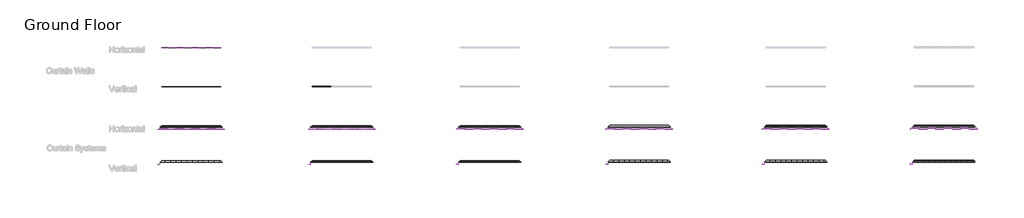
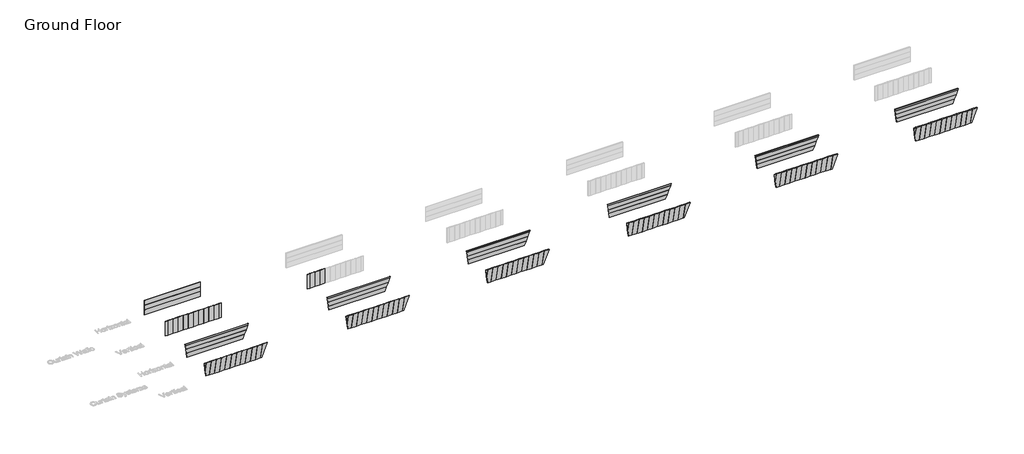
# One storey, part 1 of 11: 121 plates.
"""IFC4 building model written with IfcOpenShell, lengths in millimetres."""

from ifc_helpers import new_model, si_unit, origin, place, context, project, spatial, transform, mapped, element, save
from components import system_panel_404e2bfc, system_panel_2d74c069, system_panel_7d9ebce2, system_panel_118ae758, system_panel_f9ed22c7, system_panel_caadb3ed, system_panel_c4111855, system_panel_e86207e9, system_panel_6e68f707, system_panel_431e03af, system_panel_2f546f10, system_panel_4b1fffc4, system_panel_3cb5285a, system_panel_6109f289, system_panel_6baa01c1, system_panel_dae39a37, system_panel_6d159058, system_panel_117297ec, system_panel_b2905ae1, system_panel_31a21a41, system_panel_ad70d7ff, system_panel_e9b7887a, system_panel_136fc1d7, system_panel_a8e93ce1, system_panel_d58b1396, system_panel_2589ff73, system_panel_b51e4787, system_panel_1549973f, system_panel_0e52adfc, system_panel_0f2582f7, system_panel_222113f3, system_panel_da703823, system_panel_d9a83c33, system_panel_cab4ce0a, system_panel_4289257d, system_panel_7543d43a, system_panel_e06f3d7a, system_panel_694ff7dd, system_panel_97bfa6f5, system_panel_f83dd443, system_panel_cb7dd1a5, system_panel_1c91e0ad, system_panel_2bb59846, system_panel_a37b50f9, system_panel_3832784e, system_panel_7e7ab7b5, system_panel_7eebd85d, system_panel_ecdf3daf, system_panel_99cabc98, system_panel_362cc927, system_panel_5eaa5fa1, system_panel_1fb29ec4, system_panel_d4aeffd6

model = new_model("IFC4")

# Units and contexts
model_context = context("Model", 3, world=origin())
ifc_project = project(units=[si_unit("LENGTHUNIT", "METRE", prefix="MILLI")], contexts=[model_context])

# Site, building, storey
site = spatial("IfcSite", under=ifc_project)
building = spatial("IfcBuilding", under=site)
storey = spatial("IfcBuildingStorey", under=building, Name="Ground Floor", Elevation=0.0)

# Plates
placement = place(None, origin())
system_panel_shape = system_panel_404e2bfc(model_context)
element("IfcPlate", 1, ObjectType="System Panel : MetecnoPanel_75mm_Plain_Surfmist", at=placement, inside=storey, context=model_context, shape_type="MappedRepresentation", body=[
    mapped(system_panel_shape, transform((15128.5594541, -1242.5362448, 0.0), x_axis=(-1.0, 0.0, 0.0), y_axis=(0.0, -0.978268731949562, -0.20734099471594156), z_axis=(0.0, -0.20734099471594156, 0.978268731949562))),
])
system_panel_2_shape = system_panel_2d74c069(model_context)
element("IfcPlate", 2, ObjectType="System Panel : MetecnoPanel_75mm_Plain_Surfmist", at=placement, inside=storey, context=model_context, shape_type="MappedRepresentation", body=[
    mapped(system_panel_2_shape, transform((15128.5594541, -1470.611339, 1076.0956051), x_axis=(-1.0, 0.0, 0.0), y_axis=(0.0, -0.978268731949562, -0.20734099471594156), z_axis=(0.0, -0.20734099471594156, 0.978268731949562))),
])
system_panel_3_shape = system_panel_7d9ebce2(model_context)
element("IfcPlate", 3, ObjectType="System Panel : MetecnoPanel_75mm_Plain_Surfmist", at=placement, inside=storey, context=model_context, shape_type="MappedRepresentation", body=[
    mapped(system_panel_3_shape, transform((15128.5594541, -1698.6864332, 2152.1912103), x_axis=(-1.0, 0.0, 0.0), y_axis=(0.0, -0.978268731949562, -0.20734099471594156), z_axis=(0.0, -0.20734099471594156, 0.978268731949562))),
])
system_panel_4_shape = system_panel_118ae758(model_context)
element("IfcPlate", 4, ObjectType="System Panel : MetecnoPanel_75mm_Plain_Surfmist", at=placement, inside=storey, context=model_context, shape_type="MappedRepresentation", body=[
    mapped(system_panel_4_shape, transform((15128.5594541, -1926.7615274, 3228.2868154), x_axis=(-1.0, 0.0, 0.0), y_axis=(0.0, -0.978268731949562, -0.20734099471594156), z_axis=(0.0, -0.20734099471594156, 0.978268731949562))),
])
system_panel_5_shape = system_panel_f9ed22c7(model_context)
element("IfcPlate", 5, ObjectType="System Panel : MetecnoPanel_150mm_Plain_Surfmist", at=placement, inside=storey, context=model_context, shape_type="MappedRepresentation", body=[
    mapped(system_panel_5_shape, transform((107128.5594541, -1242.5362448, 0.0), x_axis=(-1.0, 0.0, 0.0), y_axis=(0.0, -0.978268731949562, -0.20734099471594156), z_axis=(0.0, -0.20734099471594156, 0.978268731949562))),
])
system_panel_6_shape = system_panel_caadb3ed(model_context)
element("IfcPlate", 6, ObjectType="System Panel : MetecnoPanel_150mm_Plain_Surfmist", at=placement, inside=storey, context=model_context, shape_type="MappedRepresentation", body=[
    mapped(system_panel_6_shape, transform((107128.5594541, -1470.611339, 1076.0956051), x_axis=(-1.0, 0.0, 0.0), y_axis=(0.0, -0.978268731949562, -0.20734099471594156), z_axis=(0.0, -0.20734099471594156, 0.978268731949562))),
])
system_panel_7_shape = system_panel_c4111855(model_context)
element("IfcPlate", 7, ObjectType="System Panel : MetecnoPanel_150mm_Plain_Surfmist", at=placement, inside=storey, context=model_context, shape_type="MappedRepresentation", body=[
    mapped(system_panel_7_shape, transform((107128.5594541, -1698.6864332, 2152.1912103), x_axis=(-1.0, 0.0, 0.0), y_axis=(0.0, -0.978268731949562, -0.20734099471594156), z_axis=(0.0, -0.20734099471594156, 0.978268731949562))),
])
system_panel_8_shape = system_panel_e86207e9(model_context)
element("IfcPlate", 8, ObjectType="System Panel : MetecnoPanel_150mm_Plain_Surfmist", at=placement, inside=storey, context=model_context, shape_type="MappedRepresentation", body=[
    mapped(system_panel_8_shape, transform((107128.5594541, -1926.7615274, 3228.2868154), x_axis=(-1.0, 0.0, 0.0), y_axis=(0.0, -0.978268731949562, -0.20734099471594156), z_axis=(0.0, -0.20734099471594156, 0.978268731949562))),
])
system_panel_9_shape = system_panel_6e68f707(model_context)
element("IfcPlate", 9, ObjectType="System Panel : MetecnoPanel_200mm_Plain_Surfmist", at=placement, inside=storey, context=model_context, shape_type="MappedRepresentation", body=[
    mapped(system_panel_9_shape, transform((137128.5594541, -1242.5362448, 0.0), x_axis=(-1.0, 0.0, 0.0), y_axis=(0.0, -0.978268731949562, -0.20734099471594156), z_axis=(0.0, -0.20734099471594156, 0.978268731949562))),
])
system_panel_10_shape = system_panel_431e03af(model_context)
element("IfcPlate", 10, ObjectType="System Panel : MetecnoPanel_200mm_Plain_Surfmist", at=placement, inside=storey, context=model_context, shape_type="MappedRepresentation", body=[
    mapped(system_panel_10_shape, transform((137128.5594541, -1470.611339, 1076.0956051), x_axis=(-1.0, 0.0, 0.0), y_axis=(0.0, -0.978268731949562, -0.20734099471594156), z_axis=(0.0, -0.20734099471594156, 0.978268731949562))),
])
system_panel_11_shape = system_panel_2f546f10(model_context)
element("IfcPlate", 11, ObjectType="System Panel : MetecnoPanel_200mm_Plain_Surfmist", at=placement, inside=storey, context=model_context, shape_type="MappedRepresentation", body=[
    mapped(system_panel_11_shape, transform((137128.5594541, -1698.6864332, 2152.1912103), x_axis=(-1.0, 0.0, 0.0), y_axis=(0.0, -0.978268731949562, -0.20734099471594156), z_axis=(0.0, -0.20734099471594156, 0.978268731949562))),
])
system_panel_12_shape = system_panel_4b1fffc4(model_context)
element("IfcPlate", 12, ObjectType="System Panel : MetecnoPanel_200mm_Plain_Surfmist", at=placement, inside=storey, context=model_context, shape_type="MappedRepresentation", body=[
    mapped(system_panel_12_shape, transform((137128.5594541, -1926.7615274, 3228.2868154), x_axis=(-1.0, 0.0, 0.0), y_axis=(0.0, -0.978268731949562, -0.20734099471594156), z_axis=(0.0, -0.20734099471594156, 0.978268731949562))),
])
system_panel_13_shape = system_panel_3cb5285a(model_context)
element("IfcPlate", 13, ObjectType="System Panel : MetecnoPanel_50mm_Plain_Surfmist", at=placement, inside=storey, context=model_context, shape_type="MappedRepresentation", body=[
    mapped(system_panel_13_shape, transform((-15371.4405459, 14597.4637552, 0.0), x_axis=(1.0, 0.0, 0.0), y_axis=(0.0, 1.0, 0.0), z_axis=(0.0, 0.0, 1.0))),
])
element("IfcPlate", 14, ObjectType="System Panel : MetecnoPanel_50mm_Plain_Surfmist", at=placement, inside=storey, context=model_context, shape_type="MappedRepresentation", body=[
    mapped(system_panel_13_shape, transform((-15371.4405459, 14597.4637552, 1100.0), x_axis=(1.0, 0.0, 0.0), y_axis=(0.0, 1.0, 0.0), z_axis=(0.0, 0.0, 1.0))),
])
element("IfcPlate", 15, ObjectType="System Panel : MetecnoPanel_50mm_Plain_Surfmist", at=placement, inside=storey, context=model_context, shape_type="MappedRepresentation", body=[
    mapped(system_panel_13_shape, transform((-15371.4405459, 14597.4637552, 2200.0), x_axis=(1.0, 0.0, 0.0), y_axis=(0.0, 1.0, 0.0), z_axis=(0.0, 0.0, 1.0))),
])
system_panel_14_shape = system_panel_6109f289(model_context)
element("IfcPlate", 16, ObjectType="System Panel : MetecnoPanel_50mm_Plain_Surfmist", at=placement, inside=storey, context=model_context, shape_type="MappedRepresentation", body=[
    mapped(system_panel_14_shape, transform((-21121.4405459, 6697.4637552, 0.0), x_axis=(1.0, 0.0, 0.0), y_axis=(0.0, 1.0, 0.0), z_axis=(0.0, 0.0, 1.0))),
])
element("IfcPlate", 17, ObjectType="System Panel : MetecnoPanel_50mm_Plain_Surfmist", at=placement, inside=storey, context=model_context, shape_type="MappedRepresentation", body=[
    mapped(system_panel_14_shape, transform((-9621.4405459, 6697.4637552, 0.0), x_axis=(1.0, 0.0, 0.0), y_axis=(0.0, 1.0, 0.0), z_axis=(0.0, 0.0, 1.0))),
])
system_panel_15_shape = system_panel_6baa01c1(model_context)
element("IfcPlate", 18, ObjectType="System Panel : MetecnoPanel_50mm_Plain_Surfmist", at=placement, inside=storey, context=model_context, shape_type="MappedRepresentation", body=[
    mapped(system_panel_15_shape, transform((-18121.4405459, 6697.4637552, 0.0), x_axis=(1.0, 0.0, 0.0), y_axis=(0.0, 1.0, 0.0), z_axis=(0.0, 0.0, 1.0))),
])
element("IfcPlate", 19, ObjectType="System Panel : MetecnoPanel_50mm_Plain_Surfmist", at=placement, inside=storey, context=model_context, shape_type="MappedRepresentation", body=[
    mapped(system_panel_15_shape, transform((-17021.4405459, 6697.4637552, 0.0), x_axis=(1.0, 0.0, 0.0), y_axis=(0.0, 1.0, 0.0), z_axis=(0.0, 0.0, 1.0))),
])
element("IfcPlate", 20, ObjectType="System Panel : MetecnoPanel_50mm_Plain_Surfmist", at=placement, inside=storey, context=model_context, shape_type="MappedRepresentation", body=[
    mapped(system_panel_15_shape, transform((-15921.4405459, 6697.4637552, 0.0), x_axis=(1.0, 0.0, 0.0), y_axis=(0.0, 1.0, 0.0), z_axis=(0.0, 0.0, 1.0))),
])
element("IfcPlate", 21, ObjectType="System Panel : MetecnoPanel_50mm_Plain_Surfmist", at=placement, inside=storey, context=model_context, shape_type="MappedRepresentation", body=[
    mapped(system_panel_15_shape, transform((-14821.4405459, 6697.4637552, 0.0), x_axis=(1.0, 0.0, 0.0), y_axis=(0.0, 1.0, 0.0), z_axis=(0.0, 0.0, 1.0))),
])
element("IfcPlate", 22, ObjectType="System Panel : MetecnoPanel_50mm_Plain_Surfmist", at=placement, inside=storey, context=model_context, shape_type="MappedRepresentation", body=[
    mapped(system_panel_15_shape, transform((-13721.4405459, 6697.4637552, 0.0), x_axis=(1.0, 0.0, 0.0), y_axis=(0.0, 1.0, 0.0), z_axis=(0.0, 0.0, 1.0))),
])
element("IfcPlate", 23, ObjectType="System Panel : MetecnoPanel_50mm_Plain_Surfmist", at=placement, inside=storey, context=model_context, shape_type="MappedRepresentation", body=[
    mapped(system_panel_15_shape, transform((-12621.4405459, 6697.4637552, 0.0), x_axis=(1.0, 0.0, 0.0), y_axis=(0.0, 1.0, 0.0), z_axis=(0.0, 0.0, 1.0))),
])
element("IfcPlate", 24, ObjectType="System Panel : MetecnoPanel_50mm_Plain_Surfmist", at=placement, inside=storey, context=model_context, shape_type="MappedRepresentation", body=[
    mapped(system_panel_15_shape, transform((-11521.4405459, 6697.4637552, 0.0), x_axis=(1.0, 0.0, 0.0), y_axis=(0.0, 1.0, 0.0), z_axis=(0.0, 0.0, 1.0))),
])
element("IfcPlate", 25, ObjectType="System Panel : MetecnoPanel_50mm_Plain_Surfmist", at=placement, inside=storey, context=model_context, shape_type="MappedRepresentation", body=[
    mapped(system_panel_15_shape, transform((-10421.4405459, 6697.4637552, 0.0), x_axis=(1.0, 0.0, 0.0), y_axis=(0.0, 1.0, 0.0), z_axis=(0.0, 0.0, 1.0))),
])
element("IfcPlate", 26, ObjectType="System Panel : MetecnoPanel_50mm_Plain_Surfmist", at=placement, inside=storey, context=model_context, shape_type="MappedRepresentation", body=[
    mapped(system_panel_15_shape, transform((-19221.4405459, 6697.4637552, 0.0), x_axis=(1.0, 0.0, 0.0), y_axis=(0.0, 1.0, 0.0), z_axis=(0.0, 0.0, 1.0))),
])
element("IfcPlate", 27, ObjectType="System Panel : MetecnoPanel_50mm_Plain_Surfmist", at=placement, inside=storey, context=model_context, shape_type="MappedRepresentation", body=[
    mapped(system_panel_15_shape, transform((-20321.4405459, 6697.4637552, 0.0), x_axis=(1.0, 0.0, 0.0), y_axis=(0.0, 1.0, 0.0), z_axis=(0.0, 0.0, 1.0))),
])
system_panel_16_shape = system_panel_dae39a37(model_context)
element("IfcPlate", 28, ObjectType="System Panel : MetecnoPanel_75mm_Plain_Surfmist", at=placement, inside=storey, context=model_context, shape_type="MappedRepresentation", body=[
    mapped(system_panel_16_shape, transform((9378.5594541, 6697.4637552, 0.0), x_axis=(1.0, 0.0, 0.0), y_axis=(0.0, 1.0, 0.0), z_axis=(0.0, 0.0, 1.0))),
])
system_panel_17_shape = system_panel_6d159058(model_context)
element("IfcPlate", 29, ObjectType="System Panel : MetecnoPanel_75mm_Plain_Surfmist", at=placement, inside=storey, context=model_context, shape_type="MappedRepresentation", body=[
    mapped(system_panel_17_shape, transform((12378.5594541, 6697.4637552, 0.0), x_axis=(1.0, 0.0, 0.0), y_axis=(0.0, 1.0, 0.0), z_axis=(0.0, 0.0, 1.0))),
])
element("IfcPlate", 30, ObjectType="System Panel : MetecnoPanel_75mm_Plain_Surfmist", at=placement, inside=storey, context=model_context, shape_type="MappedRepresentation", body=[
    mapped(system_panel_17_shape, transform((11278.5594541, 6697.4637552, 0.0), x_axis=(1.0, 0.0, 0.0), y_axis=(0.0, 1.0, 0.0), z_axis=(0.0, 0.0, 1.0))),
])
element("IfcPlate", 31, ObjectType="System Panel : MetecnoPanel_75mm_Plain_Surfmist", at=placement, inside=storey, context=model_context, shape_type="MappedRepresentation", body=[
    mapped(system_panel_17_shape, transform((10178.5594541, 6697.4637552, 0.0), x_axis=(1.0, 0.0, 0.0), y_axis=(0.0, 1.0, 0.0), z_axis=(0.0, 0.0, 1.0))),
])
system_panel_18_shape = system_panel_117297ec(model_context)
element("IfcPlate", 32, ObjectType="System Panel : MetecnoPanel_50mm_Plain_Surfmist", at=placement, inside=storey, context=model_context, shape_type="MappedRepresentation", body=[
    mapped(system_panel_18_shape, transform((-15371.4405459, -1242.5362448, 0.0), x_axis=(-1.0, 0.0, 0.0), y_axis=(0.0, -0.978268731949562, -0.20734099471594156), z_axis=(0.0, -0.20734099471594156, 0.978268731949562))),
])
system_panel_19_shape = system_panel_b2905ae1(model_context)
element("IfcPlate", 33, ObjectType="System Panel : MetecnoPanel_50mm_Plain_Surfmist", at=placement, inside=storey, context=model_context, shape_type="MappedRepresentation", body=[
    mapped(system_panel_19_shape, transform((-15371.4405459, -1470.611339, 1076.0956051), x_axis=(-1.0, 0.0, 0.0), y_axis=(0.0, -0.978268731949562, -0.20734099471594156), z_axis=(0.0, -0.20734099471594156, 0.978268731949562))),
])
system_panel_20_shape = system_panel_31a21a41(model_context)
element("IfcPlate", 34, ObjectType="System Panel : MetecnoPanel_50mm_Plain_Surfmist", at=placement, inside=storey, context=model_context, shape_type="MappedRepresentation", body=[
    mapped(system_panel_20_shape, transform((-15371.4405459, -1698.6864332, 2152.1912103), x_axis=(-1.0, 0.0, 0.0), y_axis=(0.0, -0.978268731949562, -0.20734099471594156), z_axis=(0.0, -0.20734099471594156, 0.978268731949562))),
])
system_panel_21_shape = system_panel_ad70d7ff(model_context)
element("IfcPlate", 35, ObjectType="System Panel : MetecnoPanel_50mm_Plain_Surfmist", at=placement, inside=storey, context=model_context, shape_type="MappedRepresentation", body=[
    mapped(system_panel_21_shape, transform((-15371.4405459, -1926.7615274, 3228.2868154), x_axis=(-1.0, 0.0, 0.0), y_axis=(0.0, -0.978268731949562, -0.20734099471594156), z_axis=(0.0, -0.20734099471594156, 0.978268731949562))),
])
system_panel_22_shape = system_panel_e9b7887a(model_context)
element("IfcPlate", 36, ObjectType="System Panel : MetecnoPanel_50mm_Plain_Surfmist", at=placement, inside=storey, context=model_context, shape_type="MappedRepresentation", body=[
    mapped(system_panel_22_shape, transform((-9121.4405459, -8342.5362448, 0.0), x_axis=(-1.0, 0.0, 0.0), y_axis=(0.0, -0.978268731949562, -0.20734099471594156), z_axis=(0.0, -0.20734099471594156, 0.978268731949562))),
])
system_panel_23_shape = system_panel_136fc1d7(model_context)
element("IfcPlate", 37, ObjectType="System Panel : MetecnoPanel_50mm_Plain_Surfmist", at=placement, inside=storey, context=model_context, shape_type="MappedRepresentation", body=[
    mapped(system_panel_23_shape, transform((-10221.4405459, -8342.5362448, 0.0), x_axis=(-1.0, 0.0, 0.0), y_axis=(0.0, -0.978268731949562, -0.20734099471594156), z_axis=(0.0, -0.20734099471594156, 0.978268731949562))),
])
element("IfcPlate", 38, ObjectType="System Panel : MetecnoPanel_50mm_Plain_Surfmist", at=placement, inside=storey, context=model_context, shape_type="MappedRepresentation", body=[
    mapped(system_panel_23_shape, transform((-11321.4405459, -8342.5362448, 0.0), x_axis=(-1.0, 0.0, 0.0), y_axis=(0.0, -0.978268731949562, -0.20734099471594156), z_axis=(0.0, -0.20734099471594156, 0.978268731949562))),
])
element("IfcPlate", 39, ObjectType="System Panel : MetecnoPanel_50mm_Plain_Surfmist", at=placement, inside=storey, context=model_context, shape_type="MappedRepresentation", body=[
    mapped(system_panel_23_shape, transform((-12421.4405459, -8342.5362448, 0.0), x_axis=(-1.0, 0.0, 0.0), y_axis=(0.0, -0.978268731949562, -0.20734099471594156), z_axis=(0.0, -0.20734099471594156, 0.978268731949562))),
])
element("IfcPlate", 40, ObjectType="System Panel : MetecnoPanel_50mm_Plain_Surfmist", at=placement, inside=storey, context=model_context, shape_type="MappedRepresentation", body=[
    mapped(system_panel_23_shape, transform((-13521.4405459, -8342.5362448, 0.0), x_axis=(-1.0, 0.0, 0.0), y_axis=(0.0, -0.978268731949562, -0.20734099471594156), z_axis=(0.0, -0.20734099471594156, 0.978268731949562))),
])
element("IfcPlate", 41, ObjectType="System Panel : MetecnoPanel_50mm_Plain_Surfmist", at=placement, inside=storey, context=model_context, shape_type="MappedRepresentation", body=[
    mapped(system_panel_23_shape, transform((-14621.4405459, -8342.5362448, 0.0), x_axis=(-1.0, 0.0, 0.0), y_axis=(0.0, -0.978268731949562, -0.20734099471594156), z_axis=(0.0, -0.20734099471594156, 0.978268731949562))),
])
element("IfcPlate", 42, ObjectType="System Panel : MetecnoPanel_50mm_Plain_Surfmist", at=placement, inside=storey, context=model_context, shape_type="MappedRepresentation", body=[
    mapped(system_panel_23_shape, transform((-15721.4405459, -8342.5362448, 0.0), x_axis=(-1.0, 0.0, 0.0), y_axis=(0.0, -0.978268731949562, -0.20734099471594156), z_axis=(0.0, -0.20734099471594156, 0.978268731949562))),
])
element("IfcPlate", 43, ObjectType="System Panel : MetecnoPanel_50mm_Plain_Surfmist", at=placement, inside=storey, context=model_context, shape_type="MappedRepresentation", body=[
    mapped(system_panel_23_shape, transform((-16821.4405459, -8342.5362448, 0.0), x_axis=(-1.0, 0.0, 0.0), y_axis=(0.0, -0.978268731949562, -0.20734099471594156), z_axis=(0.0, -0.20734099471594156, 0.978268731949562))),
])
element("IfcPlate", 44, ObjectType="System Panel : MetecnoPanel_50mm_Plain_Surfmist", at=placement, inside=storey, context=model_context, shape_type="MappedRepresentation", body=[
    mapped(system_panel_23_shape, transform((-17921.4405459, -8342.5362448, 0.0), x_axis=(-1.0, 0.0, 0.0), y_axis=(0.0, -0.978268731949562, -0.20734099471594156), z_axis=(0.0, -0.20734099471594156, 0.978268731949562))),
])
element("IfcPlate", 45, ObjectType="System Panel : MetecnoPanel_50mm_Plain_Surfmist", at=placement, inside=storey, context=model_context, shape_type="MappedRepresentation", body=[
    mapped(system_panel_23_shape, transform((-19021.4405459, -8342.5362448, 0.0), x_axis=(-1.0, 0.0, 0.0), y_axis=(0.0, -0.978268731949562, -0.20734099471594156), z_axis=(0.0, -0.20734099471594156, 0.978268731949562))),
])
element("IfcPlate", 46, ObjectType="System Panel : MetecnoPanel_50mm_Plain_Surfmist", at=placement, inside=storey, context=model_context, shape_type="MappedRepresentation", body=[
    mapped(system_panel_23_shape, transform((-20121.4405459, -8342.5362448, 0.0), x_axis=(-1.0, 0.0, 0.0), y_axis=(0.0, -0.978268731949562, -0.20734099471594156), z_axis=(0.0, -0.20734099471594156, 0.978268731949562))),
])
system_panel_24_shape = system_panel_a8e93ce1(model_context)
element("IfcPlate", 47, ObjectType="System Panel : MetecnoPanel_50mm_Plain_Surfmist", at=placement, inside=storey, context=model_context, shape_type="MappedRepresentation", body=[
    mapped(system_panel_24_shape, transform((-21221.4405459, -8342.5362448, 0.0), x_axis=(-1.0, 0.0, 0.0), y_axis=(0.0, -0.978268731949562, -0.20734099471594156), z_axis=(0.0, -0.20734099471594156, 0.978268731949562))),
])
system_panel_25_shape = system_panel_d58b1396(model_context)
element("IfcPlate", 48, ObjectType="System Panel : MetecnoPanel_50mm_Plain_Surfmist", at=placement, inside=storey, context=model_context, shape_type="MappedRepresentation", body=[
    mapped(system_panel_25_shape, transform((-21971.4405459, -8724.0406089, 1800.0), x_axis=(-1.0, 0.0, 0.0), y_axis=(0.0, -0.978268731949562, -0.20734099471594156), z_axis=(0.0, -0.20734099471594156, 0.978268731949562))),
])
system_panel_26_shape = system_panel_2589ff73(model_context)
element("IfcPlate", 49, ObjectType="System Panel : MetecnoPanel_75mm_Plain_Surfmist", at=placement, inside=storey, context=model_context, shape_type="MappedRepresentation", body=[
    mapped(system_panel_26_shape, transform((21378.5594541, -8342.5362448, 0.0), x_axis=(-1.0, 0.0, 0.0), y_axis=(0.0, -0.978268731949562, -0.20734099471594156), z_axis=(0.0, -0.20734099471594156, 0.978268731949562))),
])
system_panel_27_shape = system_panel_b51e4787(model_context)
element("IfcPlate", 50, ObjectType="System Panel : MetecnoPanel_75mm_Plain_Surfmist", at=placement, inside=storey, context=model_context, shape_type="MappedRepresentation", body=[
    mapped(system_panel_27_shape, transform((20278.5594541, -8342.5362448, 0.0), x_axis=(-1.0, 0.0, 0.0), y_axis=(0.0, -0.978268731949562, -0.20734099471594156), z_axis=(0.0, -0.20734099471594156, 0.978268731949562))),
])
element("IfcPlate", 51, ObjectType="System Panel : MetecnoPanel_75mm_Plain_Surfmist", at=placement, inside=storey, context=model_context, shape_type="MappedRepresentation", body=[
    mapped(system_panel_27_shape, transform((19178.5594541, -8342.5362448, 0.0), x_axis=(-1.0, 0.0, 0.0), y_axis=(0.0, -0.978268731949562, -0.20734099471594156), z_axis=(0.0, -0.20734099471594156, 0.978268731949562))),
])
element("IfcPlate", 52, ObjectType="System Panel : MetecnoPanel_75mm_Plain_Surfmist", at=placement, inside=storey, context=model_context, shape_type="MappedRepresentation", body=[
    mapped(system_panel_27_shape, transform((18078.5594541, -8342.5362448, 0.0), x_axis=(-1.0, 0.0, 0.0), y_axis=(0.0, -0.978268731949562, -0.20734099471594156), z_axis=(0.0, -0.20734099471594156, 0.978268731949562))),
])
element("IfcPlate", 53, ObjectType="System Panel : MetecnoPanel_75mm_Plain_Surfmist", at=placement, inside=storey, context=model_context, shape_type="MappedRepresentation", body=[
    mapped(system_panel_27_shape, transform((16978.5594541, -8342.5362448, 0.0), x_axis=(-1.0, 0.0, 0.0), y_axis=(0.0, -0.978268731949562, -0.20734099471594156), z_axis=(0.0, -0.20734099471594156, 0.978268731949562))),
])
element("IfcPlate", 54, ObjectType="System Panel : MetecnoPanel_75mm_Plain_Surfmist", at=placement, inside=storey, context=model_context, shape_type="MappedRepresentation", body=[
    mapped(system_panel_27_shape, transform((15878.5594541, -8342.5362448, 0.0), x_axis=(-1.0, 0.0, 0.0), y_axis=(0.0, -0.978268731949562, -0.20734099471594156), z_axis=(0.0, -0.20734099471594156, 0.978268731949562))),
])
element("IfcPlate", 55, ObjectType="System Panel : MetecnoPanel_75mm_Plain_Surfmist", at=placement, inside=storey, context=model_context, shape_type="MappedRepresentation", body=[
    mapped(system_panel_27_shape, transform((14778.5594541, -8342.5362448, 0.0), x_axis=(-1.0, 0.0, 0.0), y_axis=(0.0, -0.978268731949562, -0.20734099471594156), z_axis=(0.0, -0.20734099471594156, 0.978268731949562))),
])
element("IfcPlate", 56, ObjectType="System Panel : MetecnoPanel_75mm_Plain_Surfmist", at=placement, inside=storey, context=model_context, shape_type="MappedRepresentation", body=[
    mapped(system_panel_27_shape, transform((13678.5594541, -8342.5362448, 0.0), x_axis=(-1.0, 0.0, 0.0), y_axis=(0.0, -0.978268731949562, -0.20734099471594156), z_axis=(0.0, -0.20734099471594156, 0.978268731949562))),
])
element("IfcPlate", 57, ObjectType="System Panel : MetecnoPanel_75mm_Plain_Surfmist", at=placement, inside=storey, context=model_context, shape_type="MappedRepresentation", body=[
    mapped(system_panel_27_shape, transform((12578.5594541, -8342.5362448, 0.0), x_axis=(-1.0, 0.0, 0.0), y_axis=(0.0, -0.978268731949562, -0.20734099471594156), z_axis=(0.0, -0.20734099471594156, 0.978268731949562))),
])
element("IfcPlate", 58, ObjectType="System Panel : MetecnoPanel_75mm_Plain_Surfmist", at=placement, inside=storey, context=model_context, shape_type="MappedRepresentation", body=[
    mapped(system_panel_27_shape, transform((11478.5594541, -8342.5362448, 0.0), x_axis=(-1.0, 0.0, 0.0), y_axis=(0.0, -0.978268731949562, -0.20734099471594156), z_axis=(0.0, -0.20734099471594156, 0.978268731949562))),
])
element("IfcPlate", 59, ObjectType="System Panel : MetecnoPanel_75mm_Plain_Surfmist", at=placement, inside=storey, context=model_context, shape_type="MappedRepresentation", body=[
    mapped(system_panel_27_shape, transform((10378.5594541, -8342.5362448, 0.0), x_axis=(-1.0, 0.0, 0.0), y_axis=(0.0, -0.978268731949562, -0.20734099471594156), z_axis=(0.0, -0.20734099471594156, 0.978268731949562))),
])
system_panel_28_shape = system_panel_1549973f(model_context)
element("IfcPlate", 60, ObjectType="System Panel : MetecnoPanel_75mm_Plain_Surfmist", at=placement, inside=storey, context=model_context, shape_type="MappedRepresentation", body=[
    mapped(system_panel_28_shape, transform((9278.5594541, -8342.5362448, 0.0), x_axis=(-1.0, 0.0, 0.0), y_axis=(0.0, -0.978268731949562, -0.20734099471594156), z_axis=(0.0, -0.20734099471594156, 0.978268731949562))),
])
system_panel_29_shape = system_panel_0e52adfc(model_context)
element("IfcPlate", 61, ObjectType="System Panel : MetecnoPanel_75mm_Plain_Surfmist", at=placement, inside=storey, context=model_context, shape_type="MappedRepresentation", body=[
    mapped(system_panel_29_shape, transform((8528.5594541, -8724.0406089, 1800.0), x_axis=(-1.0, 0.0, 0.0), y_axis=(0.0, -0.978268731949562, -0.20734099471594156), z_axis=(0.0, -0.20734099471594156, 0.978268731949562))),
])
system_panel_30_shape = system_panel_0f2582f7(model_context)
element("IfcPlate", 62, ObjectType="System Panel : MetecnoPanel_100mm_Plain_Surfmist", at=placement, inside=storey, context=model_context, shape_type="MappedRepresentation", body=[
    mapped(system_panel_30_shape, transform((45128.5594541, -1242.5362448, 0.0), x_axis=(-1.0, 0.0, 0.0), y_axis=(0.0, -0.978268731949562, -0.20734099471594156), z_axis=(0.0, -0.20734099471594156, 0.978268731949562))),
])
system_panel_31_shape = system_panel_222113f3(model_context)
element("IfcPlate", 63, ObjectType="System Panel : MetecnoPanel_100mm_Plain_Surfmist", at=placement, inside=storey, context=model_context, shape_type="MappedRepresentation", body=[
    mapped(system_panel_31_shape, transform((45128.5594541, -1470.611339, 1076.0956051), x_axis=(-1.0, 0.0, 0.0), y_axis=(0.0, -0.978268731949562, -0.20734099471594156), z_axis=(0.0, -0.20734099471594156, 0.978268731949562))),
])
system_panel_32_shape = system_panel_da703823(model_context)
element("IfcPlate", 64, ObjectType="System Panel : MetecnoPanel_100mm_Plain_Surfmist", at=placement, inside=storey, context=model_context, shape_type="MappedRepresentation", body=[
    mapped(system_panel_32_shape, transform((45128.5594541, -1698.6864332, 2152.1912103), x_axis=(-1.0, 0.0, 0.0), y_axis=(0.0, -0.978268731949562, -0.20734099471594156), z_axis=(0.0, -0.20734099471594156, 0.978268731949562))),
])
system_panel_33_shape = system_panel_d9a83c33(model_context)
element("IfcPlate", 65, ObjectType="System Panel : MetecnoPanel_100mm_Plain_Surfmist", at=placement, inside=storey, context=model_context, shape_type="MappedRepresentation", body=[
    mapped(system_panel_33_shape, transform((45128.5594541, -1926.7615274, 3228.2868154), x_axis=(-1.0, 0.0, 0.0), y_axis=(0.0, -0.978268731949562, -0.20734099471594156), z_axis=(0.0, -0.20734099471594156, 0.978268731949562))),
])
system_panel_34_shape = system_panel_cab4ce0a(model_context)
element("IfcPlate", 66, ObjectType="System Panel : MetecnoPanel_100mm_Plain_Surfmist", at=placement, inside=storey, context=model_context, shape_type="MappedRepresentation", body=[
    mapped(system_panel_34_shape, transform((51378.5594541, -8342.5362448, 0.0), x_axis=(-1.0, 0.0, 0.0), y_axis=(0.0, -0.978268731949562, -0.20734099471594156), z_axis=(0.0, -0.20734099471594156, 0.978268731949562))),
])
system_panel_35_shape = system_panel_4289257d(model_context)
element("IfcPlate", 67, ObjectType="System Panel : MetecnoPanel_100mm_Plain_Surfmist", at=placement, inside=storey, context=model_context, shape_type="MappedRepresentation", body=[
    mapped(system_panel_35_shape, transform((50278.5594541, -8342.5362448, 0.0), x_axis=(-1.0, 0.0, 0.0), y_axis=(0.0, -0.978268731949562, -0.20734099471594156), z_axis=(0.0, -0.20734099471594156, 0.978268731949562))),
])
element("IfcPlate", 68, ObjectType="System Panel : MetecnoPanel_100mm_Plain_Surfmist", at=placement, inside=storey, context=model_context, shape_type="MappedRepresentation", body=[
    mapped(system_panel_35_shape, transform((49178.5594541, -8342.5362448, 0.0), x_axis=(-1.0, 0.0, 0.0), y_axis=(0.0, -0.978268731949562, -0.20734099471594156), z_axis=(0.0, -0.20734099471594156, 0.978268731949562))),
])
element("IfcPlate", 69, ObjectType="System Panel : MetecnoPanel_100mm_Plain_Surfmist", at=placement, inside=storey, context=model_context, shape_type="MappedRepresentation", body=[
    mapped(system_panel_35_shape, transform((48078.5594541, -8342.5362448, 0.0), x_axis=(-1.0, 0.0, 0.0), y_axis=(0.0, -0.978268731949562, -0.20734099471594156), z_axis=(0.0, -0.20734099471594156, 0.978268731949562))),
])
element("IfcPlate", 70, ObjectType="System Panel : MetecnoPanel_100mm_Plain_Surfmist", at=placement, inside=storey, context=model_context, shape_type="MappedRepresentation", body=[
    mapped(system_panel_35_shape, transform((46978.5594541, -8342.5362448, 0.0), x_axis=(-1.0, 0.0, 0.0), y_axis=(0.0, -0.978268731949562, -0.20734099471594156), z_axis=(0.0, -0.20734099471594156, 0.978268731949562))),
])
element("IfcPlate", 71, ObjectType="System Panel : MetecnoPanel_100mm_Plain_Surfmist", at=placement, inside=storey, context=model_context, shape_type="MappedRepresentation", body=[
    mapped(system_panel_35_shape, transform((45878.5594541, -8342.5362448, 0.0), x_axis=(-1.0, 0.0, 0.0), y_axis=(0.0, -0.978268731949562, -0.20734099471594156), z_axis=(0.0, -0.20734099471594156, 0.978268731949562))),
])
element("IfcPlate", 72, ObjectType="System Panel : MetecnoPanel_100mm_Plain_Surfmist", at=placement, inside=storey, context=model_context, shape_type="MappedRepresentation", body=[
    mapped(system_panel_35_shape, transform((44778.5594541, -8342.5362448, 0.0), x_axis=(-1.0, 0.0, 0.0), y_axis=(0.0, -0.978268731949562, -0.20734099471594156), z_axis=(0.0, -0.20734099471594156, 0.978268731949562))),
])
element("IfcPlate", 73, ObjectType="System Panel : MetecnoPanel_100mm_Plain_Surfmist", at=placement, inside=storey, context=model_context, shape_type="MappedRepresentation", body=[
    mapped(system_panel_35_shape, transform((43678.5594541, -8342.5362448, 0.0), x_axis=(-1.0, 0.0, 0.0), y_axis=(0.0, -0.978268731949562, -0.20734099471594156), z_axis=(0.0, -0.20734099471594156, 0.978268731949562))),
])
element("IfcPlate", 74, ObjectType="System Panel : MetecnoPanel_100mm_Plain_Surfmist", at=placement, inside=storey, context=model_context, shape_type="MappedRepresentation", body=[
    mapped(system_panel_35_shape, transform((42578.5594541, -8342.5362448, 0.0), x_axis=(-1.0, 0.0, 0.0), y_axis=(0.0, -0.978268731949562, -0.20734099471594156), z_axis=(0.0, -0.20734099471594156, 0.978268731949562))),
])
element("IfcPlate", 75, ObjectType="System Panel : MetecnoPanel_100mm_Plain_Surfmist", at=placement, inside=storey, context=model_context, shape_type="MappedRepresentation", body=[
    mapped(system_panel_35_shape, transform((41478.5594541, -8342.5362448, 0.0), x_axis=(-1.0, 0.0, 0.0), y_axis=(0.0, -0.978268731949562, -0.20734099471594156), z_axis=(0.0, -0.20734099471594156, 0.978268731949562))),
])
element("IfcPlate", 76, ObjectType="System Panel : MetecnoPanel_100mm_Plain_Surfmist", at=placement, inside=storey, context=model_context, shape_type="MappedRepresentation", body=[
    mapped(system_panel_35_shape, transform((40378.5594541, -8342.5362448, 0.0), x_axis=(-1.0, 0.0, 0.0), y_axis=(0.0, -0.978268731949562, -0.20734099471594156), z_axis=(0.0, -0.20734099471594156, 0.978268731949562))),
])
system_panel_36_shape = system_panel_7543d43a(model_context)
element("IfcPlate", 77, ObjectType="System Panel : MetecnoPanel_100mm_Plain_Surfmist", at=placement, inside=storey, context=model_context, shape_type="MappedRepresentation", body=[
    mapped(system_panel_36_shape, transform((39278.5594541, -8342.5362448, 0.0), x_axis=(-1.0, 0.0, 0.0), y_axis=(0.0, -0.978268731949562, -0.20734099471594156), z_axis=(0.0, -0.20734099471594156, 0.978268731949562))),
])
system_panel_37_shape = system_panel_e06f3d7a(model_context)
element("IfcPlate", 78, ObjectType="System Panel : MetecnoPanel_100mm_Plain_Surfmist", at=placement, inside=storey, context=model_context, shape_type="MappedRepresentation", body=[
    mapped(system_panel_37_shape, transform((38528.5594541, -8724.0406089, 1800.0), x_axis=(-1.0, 0.0, 0.0), y_axis=(0.0, -0.978268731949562, -0.20734099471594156), z_axis=(0.0, -0.20734099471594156, 0.978268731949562))),
])
system_panel_38_shape = system_panel_694ff7dd(model_context)
element("IfcPlate", 79, ObjectType="System Panel : MetecnoPanel_150mm_Plain_Surfmist", at=placement, inside=storey, context=model_context, shape_type="MappedRepresentation", body=[
    mapped(system_panel_38_shape, transform((113378.5594541, -8342.5362448, 0.0), x_axis=(-1.0, 0.0, 0.0), y_axis=(0.0, -0.978268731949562, -0.20734099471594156), z_axis=(0.0, -0.20734099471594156, 0.978268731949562))),
])
system_panel_39_shape = system_panel_97bfa6f5(model_context)
element("IfcPlate", 80, ObjectType="System Panel : MetecnoPanel_150mm_Plain_Surfmist", at=placement, inside=storey, context=model_context, shape_type="MappedRepresentation", body=[
    mapped(system_panel_39_shape, transform((112278.5594541, -8342.5362448, 0.0), x_axis=(-1.0, 0.0, 0.0), y_axis=(0.0, -0.978268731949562, -0.20734099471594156), z_axis=(0.0, -0.20734099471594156, 0.978268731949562))),
])
element("IfcPlate", 81, ObjectType="System Panel : MetecnoPanel_150mm_Plain_Surfmist", at=placement, inside=storey, context=model_context, shape_type="MappedRepresentation", body=[
    mapped(system_panel_39_shape, transform((111178.5594541, -8342.5362448, 0.0), x_axis=(-1.0, 0.0, 0.0), y_axis=(0.0, -0.978268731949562, -0.20734099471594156), z_axis=(0.0, -0.20734099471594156, 0.978268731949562))),
])
element("IfcPlate", 82, ObjectType="System Panel : MetecnoPanel_150mm_Plain_Surfmist", at=placement, inside=storey, context=model_context, shape_type="MappedRepresentation", body=[
    mapped(system_panel_39_shape, transform((110078.5594541, -8342.5362448, 0.0), x_axis=(-1.0, 0.0, 0.0), y_axis=(0.0, -0.978268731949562, -0.20734099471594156), z_axis=(0.0, -0.20734099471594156, 0.978268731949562))),
])
element("IfcPlate", 83, ObjectType="System Panel : MetecnoPanel_150mm_Plain_Surfmist", at=placement, inside=storey, context=model_context, shape_type="MappedRepresentation", body=[
    mapped(system_panel_39_shape, transform((108978.5594541, -8342.5362448, 0.0), x_axis=(-1.0, 0.0, 0.0), y_axis=(0.0, -0.978268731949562, -0.20734099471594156), z_axis=(0.0, -0.20734099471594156, 0.978268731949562))),
])
element("IfcPlate", 84, ObjectType="System Panel : MetecnoPanel_150mm_Plain_Surfmist", at=placement, inside=storey, context=model_context, shape_type="MappedRepresentation", body=[
    mapped(system_panel_39_shape, transform((107878.5594541, -8342.5362448, 0.0), x_axis=(-1.0, 0.0, 0.0), y_axis=(0.0, -0.978268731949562, -0.20734099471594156), z_axis=(0.0, -0.20734099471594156, 0.978268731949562))),
])
element("IfcPlate", 85, ObjectType="System Panel : MetecnoPanel_150mm_Plain_Surfmist", at=placement, inside=storey, context=model_context, shape_type="MappedRepresentation", body=[
    mapped(system_panel_39_shape, transform((106778.5594541, -8342.5362448, 0.0), x_axis=(-1.0, 0.0, 0.0), y_axis=(0.0, -0.978268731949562, -0.20734099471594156), z_axis=(0.0, -0.20734099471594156, 0.978268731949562))),
])
element("IfcPlate", 86, ObjectType="System Panel : MetecnoPanel_150mm_Plain_Surfmist", at=placement, inside=storey, context=model_context, shape_type="MappedRepresentation", body=[
    mapped(system_panel_39_shape, transform((105678.5594541, -8342.5362448, 0.0), x_axis=(-1.0, 0.0, 0.0), y_axis=(0.0, -0.978268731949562, -0.20734099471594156), z_axis=(0.0, -0.20734099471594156, 0.978268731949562))),
])
element("IfcPlate", 87, ObjectType="System Panel : MetecnoPanel_150mm_Plain_Surfmist", at=placement, inside=storey, context=model_context, shape_type="MappedRepresentation", body=[
    mapped(system_panel_39_shape, transform((104578.5594541, -8342.5362448, 0.0), x_axis=(-1.0, 0.0, 0.0), y_axis=(0.0, -0.978268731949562, -0.20734099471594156), z_axis=(0.0, -0.20734099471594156, 0.978268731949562))),
])
element("IfcPlate", 88, ObjectType="System Panel : MetecnoPanel_150mm_Plain_Surfmist", at=placement, inside=storey, context=model_context, shape_type="MappedRepresentation", body=[
    mapped(system_panel_39_shape, transform((103478.5594541, -8342.5362448, 0.0), x_axis=(-1.0, 0.0, 0.0), y_axis=(0.0, -0.978268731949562, -0.20734099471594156), z_axis=(0.0, -0.20734099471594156, 0.978268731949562))),
])
element("IfcPlate", 89, ObjectType="System Panel : MetecnoPanel_150mm_Plain_Surfmist", at=placement, inside=storey, context=model_context, shape_type="MappedRepresentation", body=[
    mapped(system_panel_39_shape, transform((102378.5594541, -8342.5362448, 0.0), x_axis=(-1.0, 0.0, 0.0), y_axis=(0.0, -0.978268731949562, -0.20734099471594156), z_axis=(0.0, -0.20734099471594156, 0.978268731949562))),
])
system_panel_40_shape = system_panel_f83dd443(model_context)
element("IfcPlate", 90, ObjectType="System Panel : MetecnoPanel_150mm_Plain_Surfmist", at=placement, inside=storey, context=model_context, shape_type="MappedRepresentation", body=[
    mapped(system_panel_40_shape, transform((101278.5594541, -8342.5362448, 0.0), x_axis=(-1.0, 0.0, 0.0), y_axis=(0.0, -0.978268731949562, -0.20734099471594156), z_axis=(0.0, -0.20734099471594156, 0.978268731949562))),
])
system_panel_41_shape = system_panel_cb7dd1a5(model_context)
element("IfcPlate", 91, ObjectType="System Panel : MetecnoPanel_150mm_Plain_Surfmist", at=placement, inside=storey, context=model_context, shape_type="MappedRepresentation", body=[
    mapped(system_panel_41_shape, transform((100528.5594541, -8724.0406089, 1800.0), x_axis=(-1.0, 0.0, 0.0), y_axis=(0.0, -0.978268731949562, -0.20734099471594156), z_axis=(0.0, -0.20734099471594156, 0.978268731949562))),
])
system_panel_42_shape = system_panel_1c91e0ad(model_context)
element("IfcPlate", 92, ObjectType="System Panel : MetecnoPanel_125mm_Plain_Surfmist", at=placement, inside=storey, context=model_context, shape_type="MappedRepresentation", body=[
    mapped(system_panel_42_shape, transform((75428.5594541, -1242.5362448, 0.0), x_axis=(-1.0, 0.0, 0.0), y_axis=(0.0, -0.978268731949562, -0.20734099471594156), z_axis=(0.0, -0.20734099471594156, 0.978268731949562))),
])
system_panel_43_shape = system_panel_2bb59846(model_context)
element("IfcPlate", 93, ObjectType="System Panel : MetecnoPanel_125mm_Plain_Surfmist", at=placement, inside=storey, context=model_context, shape_type="MappedRepresentation", body=[
    mapped(system_panel_43_shape, transform((75428.5594541, -1470.611339, 1076.0956051), x_axis=(-1.0, 0.0, 0.0), y_axis=(0.0, -0.978268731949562, -0.20734099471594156), z_axis=(0.0, -0.20734099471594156, 0.978268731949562))),
])
system_panel_44_shape = system_panel_a37b50f9(model_context)
element("IfcPlate", 94, ObjectType="System Panel : MetecnoPanel_125mm_Plain_Surfmist", at=placement, inside=storey, context=model_context, shape_type="MappedRepresentation", body=[
    mapped(system_panel_44_shape, transform((75428.5594541, -1698.6864332, 2152.1912103), x_axis=(-1.0, 0.0, 0.0), y_axis=(0.0, -0.978268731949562, -0.20734099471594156), z_axis=(0.0, -0.20734099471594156, 0.978268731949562))),
])
system_panel_45_shape = system_panel_3832784e(model_context)
element("IfcPlate", 95, ObjectType="System Panel : MetecnoPanel_125mm_Plain_Surfmist", at=placement, inside=storey, context=model_context, shape_type="MappedRepresentation", body=[
    mapped(system_panel_45_shape, transform((75428.5594541, -1926.7615274, 3228.2868154), x_axis=(-1.0, 0.0, 0.0), y_axis=(0.0, -0.978268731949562, -0.20734099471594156), z_axis=(0.0, -0.20734099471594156, 0.978268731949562))),
])
system_panel_46_shape = system_panel_7e7ab7b5(model_context)
element("IfcPlate", 96, ObjectType="System Panel : MetecnoPanel_125mm_Plain_Surfmist", at=placement, inside=storey, context=model_context, shape_type="MappedRepresentation", body=[
    mapped(system_panel_46_shape, transform((81678.5594541, -8342.5362448, 0.0), x_axis=(-1.0, 0.0, 0.0), y_axis=(0.0, -0.978268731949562, -0.20734099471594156), z_axis=(0.0, -0.20734099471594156, 0.978268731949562))),
])
system_panel_47_shape = system_panel_7eebd85d(model_context)
element("IfcPlate", 97, ObjectType="System Panel : MetecnoPanel_125mm_Plain_Surfmist", at=placement, inside=storey, context=model_context, shape_type="MappedRepresentation", body=[
    mapped(system_panel_47_shape, transform((80578.5594541, -8342.5362448, 0.0), x_axis=(-1.0, 0.0, 0.0), y_axis=(0.0, -0.978268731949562, -0.20734099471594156), z_axis=(0.0, -0.20734099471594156, 0.978268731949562))),
])
element("IfcPlate", 98, ObjectType="System Panel : MetecnoPanel_125mm_Plain_Surfmist", at=placement, inside=storey, context=model_context, shape_type="MappedRepresentation", body=[
    mapped(system_panel_47_shape, transform((79478.5594541, -8342.5362448, 0.0), x_axis=(-1.0, 0.0, 0.0), y_axis=(0.0, -0.978268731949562, -0.20734099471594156), z_axis=(0.0, -0.20734099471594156, 0.978268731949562))),
])
element("IfcPlate", 99, ObjectType="System Panel : MetecnoPanel_125mm_Plain_Surfmist", at=placement, inside=storey, context=model_context, shape_type="MappedRepresentation", body=[
    mapped(system_panel_47_shape, transform((78378.5594541, -8342.5362448, 0.0), x_axis=(-1.0, 0.0, 0.0), y_axis=(0.0, -0.978268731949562, -0.20734099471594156), z_axis=(0.0, -0.20734099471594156, 0.978268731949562))),
])
element("IfcPlate", 100, ObjectType="System Panel : MetecnoPanel_125mm_Plain_Surfmist", at=placement, inside=storey, context=model_context, shape_type="MappedRepresentation", body=[
    mapped(system_panel_47_shape, transform((77278.5594541, -8342.5362448, 0.0), x_axis=(-1.0, 0.0, 0.0), y_axis=(0.0, -0.978268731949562, -0.20734099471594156), z_axis=(0.0, -0.20734099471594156, 0.978268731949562))),
])
element("IfcPlate", 101, ObjectType="System Panel : MetecnoPanel_125mm_Plain_Surfmist", at=placement, inside=storey, context=model_context, shape_type="MappedRepresentation", body=[
    mapped(system_panel_47_shape, transform((76178.5594541, -8342.5362448, 0.0), x_axis=(-1.0, 0.0, 0.0), y_axis=(0.0, -0.978268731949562, -0.20734099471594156), z_axis=(0.0, -0.20734099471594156, 0.978268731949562))),
])
element("IfcPlate", 102, ObjectType="System Panel : MetecnoPanel_125mm_Plain_Surfmist", at=placement, inside=storey, context=model_context, shape_type="MappedRepresentation", body=[
    mapped(system_panel_47_shape, transform((75078.5594541, -8342.5362448, 0.0), x_axis=(-1.0, 0.0, 0.0), y_axis=(0.0, -0.978268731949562, -0.20734099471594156), z_axis=(0.0, -0.20734099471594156, 0.978268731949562))),
])
element("IfcPlate", 103, ObjectType="System Panel : MetecnoPanel_125mm_Plain_Surfmist", at=placement, inside=storey, context=model_context, shape_type="MappedRepresentation", body=[
    mapped(system_panel_47_shape, transform((73978.5594541, -8342.5362448, 0.0), x_axis=(-1.0, 0.0, 0.0), y_axis=(0.0, -0.978268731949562, -0.20734099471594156), z_axis=(0.0, -0.20734099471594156, 0.978268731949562))),
])
element("IfcPlate", 104, ObjectType="System Panel : MetecnoPanel_125mm_Plain_Surfmist", at=placement, inside=storey, context=model_context, shape_type="MappedRepresentation", body=[
    mapped(system_panel_47_shape, transform((72878.5594541, -8342.5362448, 0.0), x_axis=(-1.0, 0.0, 0.0), y_axis=(0.0, -0.978268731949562, -0.20734099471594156), z_axis=(0.0, -0.20734099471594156, 0.978268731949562))),
])
element("IfcPlate", 105, ObjectType="System Panel : MetecnoPanel_125mm_Plain_Surfmist", at=placement, inside=storey, context=model_context, shape_type="MappedRepresentation", body=[
    mapped(system_panel_47_shape, transform((71778.5594541, -8342.5362448, 0.0), x_axis=(-1.0, 0.0, 0.0), y_axis=(0.0, -0.978268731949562, -0.20734099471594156), z_axis=(0.0, -0.20734099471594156, 0.978268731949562))),
])
element("IfcPlate", 106, ObjectType="System Panel : MetecnoPanel_125mm_Plain_Surfmist", at=placement, inside=storey, context=model_context, shape_type="MappedRepresentation", body=[
    mapped(system_panel_47_shape, transform((70678.5594541, -8342.5362448, 0.0), x_axis=(-1.0, 0.0, 0.0), y_axis=(0.0, -0.978268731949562, -0.20734099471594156), z_axis=(0.0, -0.20734099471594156, 0.978268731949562))),
])
system_panel_48_shape = system_panel_ecdf3daf(model_context)
element("IfcPlate", 107, ObjectType="System Panel : MetecnoPanel_125mm_Plain_Surfmist", at=placement, inside=storey, context=model_context, shape_type="MappedRepresentation", body=[
    mapped(system_panel_48_shape, transform((69578.5594541, -8342.5362448, 0.0), x_axis=(-1.0, 0.0, 0.0), y_axis=(0.0, -0.978268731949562, -0.20734099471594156), z_axis=(0.0, -0.20734099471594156, 0.978268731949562))),
])
system_panel_49_shape = system_panel_99cabc98(model_context)
element("IfcPlate", 108, ObjectType="System Panel : MetecnoPanel_125mm_Plain_Surfmist", at=placement, inside=storey, context=model_context, shape_type="MappedRepresentation", body=[
    mapped(system_panel_49_shape, transform((68828.5594541, -8724.0406089, 1800.0), x_axis=(-1.0, 0.0, 0.0), y_axis=(0.0, -0.978268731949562, -0.20734099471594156), z_axis=(0.0, -0.20734099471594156, 0.978268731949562))),
])
system_panel_50_shape = system_panel_362cc927(model_context)
element("IfcPlate", 109, ObjectType="System Panel : MetecnoPanel_200mm_Plain_Surfmist", at=placement, inside=storey, context=model_context, shape_type="MappedRepresentation", body=[
    mapped(system_panel_50_shape, transform((143378.5594541, -8342.5362448, 0.0), x_axis=(-1.0, 0.0, 0.0), y_axis=(0.0, -0.978268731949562, -0.20734099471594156), z_axis=(0.0, -0.20734099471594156, 0.978268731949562))),
])
system_panel_51_shape = system_panel_5eaa5fa1(model_context)
element("IfcPlate", 110, ObjectType="System Panel : MetecnoPanel_200mm_Plain_Surfmist", at=placement, inside=storey, context=model_context, shape_type="MappedRepresentation", body=[
    mapped(system_panel_51_shape, transform((142278.5594541, -8342.5362448, 0.0), x_axis=(-1.0, 0.0, 0.0), y_axis=(0.0, -0.978268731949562, -0.20734099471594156), z_axis=(0.0, -0.20734099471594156, 0.978268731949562))),
])
element("IfcPlate", 111, ObjectType="System Panel : MetecnoPanel_200mm_Plain_Surfmist", at=placement, inside=storey, context=model_context, shape_type="MappedRepresentation", body=[
    mapped(system_panel_51_shape, transform((141178.5594541, -8342.5362448, 0.0), x_axis=(-1.0, 0.0, 0.0), y_axis=(0.0, -0.978268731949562, -0.20734099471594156), z_axis=(0.0, -0.20734099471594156, 0.978268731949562))),
])
element("IfcPlate", 112, ObjectType="System Panel : MetecnoPanel_200mm_Plain_Surfmist", at=placement, inside=storey, context=model_context, shape_type="MappedRepresentation", body=[
    mapped(system_panel_51_shape, transform((140078.5594541, -8342.5362448, 0.0), x_axis=(-1.0, 0.0, 0.0), y_axis=(0.0, -0.978268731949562, -0.20734099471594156), z_axis=(0.0, -0.20734099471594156, 0.978268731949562))),
])
element("IfcPlate", 113, ObjectType="System Panel : MetecnoPanel_200mm_Plain_Surfmist", at=placement, inside=storey, context=model_context, shape_type="MappedRepresentation", body=[
    mapped(system_panel_51_shape, transform((138978.5594541, -8342.5362448, 0.0), x_axis=(-1.0, 0.0, 0.0), y_axis=(0.0, -0.978268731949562, -0.20734099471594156), z_axis=(0.0, -0.20734099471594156, 0.978268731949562))),
])
element("IfcPlate", 114, ObjectType="System Panel : MetecnoPanel_200mm_Plain_Surfmist", at=placement, inside=storey, context=model_context, shape_type="MappedRepresentation", body=[
    mapped(system_panel_51_shape, transform((137878.5594541, -8342.5362448, 0.0), x_axis=(-1.0, 0.0, 0.0), y_axis=(0.0, -0.978268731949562, -0.20734099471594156), z_axis=(0.0, -0.20734099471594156, 0.978268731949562))),
])
element("IfcPlate", 115, ObjectType="System Panel : MetecnoPanel_200mm_Plain_Surfmist", at=placement, inside=storey, context=model_context, shape_type="MappedRepresentation", body=[
    mapped(system_panel_51_shape, transform((136778.5594541, -8342.5362448, 0.0), x_axis=(-1.0, 0.0, 0.0), y_axis=(0.0, -0.978268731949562, -0.20734099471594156), z_axis=(0.0, -0.20734099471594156, 0.978268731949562))),
])
element("IfcPlate", 116, ObjectType="System Panel : MetecnoPanel_200mm_Plain_Surfmist", at=placement, inside=storey, context=model_context, shape_type="MappedRepresentation", body=[
    mapped(system_panel_51_shape, transform((135678.5594541, -8342.5362448, 0.0), x_axis=(-1.0, 0.0, 0.0), y_axis=(0.0, -0.978268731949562, -0.20734099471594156), z_axis=(0.0, -0.20734099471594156, 0.978268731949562))),
])
element("IfcPlate", 117, ObjectType="System Panel : MetecnoPanel_200mm_Plain_Surfmist", at=placement, inside=storey, context=model_context, shape_type="MappedRepresentation", body=[
    mapped(system_panel_51_shape, transform((134578.5594541, -8342.5362448, 0.0), x_axis=(-1.0, 0.0, 0.0), y_axis=(0.0, -0.978268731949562, -0.20734099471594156), z_axis=(0.0, -0.20734099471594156, 0.978268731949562))),
])
element("IfcPlate", 118, ObjectType="System Panel : MetecnoPanel_200mm_Plain_Surfmist", at=placement, inside=storey, context=model_context, shape_type="MappedRepresentation", body=[
    mapped(system_panel_51_shape, transform((133478.5594541, -8342.5362448, 0.0), x_axis=(-1.0, 0.0, 0.0), y_axis=(0.0, -0.978268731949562, -0.20734099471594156), z_axis=(0.0, -0.20734099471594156, 0.978268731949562))),
])
element("IfcPlate", 119, ObjectType="System Panel : MetecnoPanel_200mm_Plain_Surfmist", at=placement, inside=storey, context=model_context, shape_type="MappedRepresentation", body=[
    mapped(system_panel_51_shape, transform((132378.5594541, -8342.5362448, 0.0), x_axis=(-1.0, 0.0, 0.0), y_axis=(0.0, -0.978268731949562, -0.20734099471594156), z_axis=(0.0, -0.20734099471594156, 0.978268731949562))),
])
system_panel_52_shape = system_panel_1fb29ec4(model_context)
element("IfcPlate", 120, ObjectType="System Panel : MetecnoPanel_200mm_Plain_Surfmist", at=placement, inside=storey, context=model_context, shape_type="MappedRepresentation", body=[
    mapped(system_panel_52_shape, transform((131278.5594541, -8342.5362448, 0.0), x_axis=(-1.0, 0.0, 0.0), y_axis=(0.0, -0.978268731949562, -0.20734099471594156), z_axis=(0.0, -0.20734099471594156, 0.978268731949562))),
])
system_panel_53_shape = system_panel_d4aeffd6(model_context)
element("IfcPlate", 121, ObjectType="System Panel : MetecnoPanel_200mm_Plain_Surfmist", at=placement, inside=storey, context=model_context, shape_type="MappedRepresentation", body=[
    mapped(system_panel_53_shape, transform((130528.5594541, -8724.0406089, 1800.0), x_axis=(-1.0, 0.0, 0.0), y_axis=(0.0, -0.978268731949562, -0.20734099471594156), z_axis=(0.0, -0.20734099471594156, 0.978268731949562))),
])

save(model, "model.ifc")
